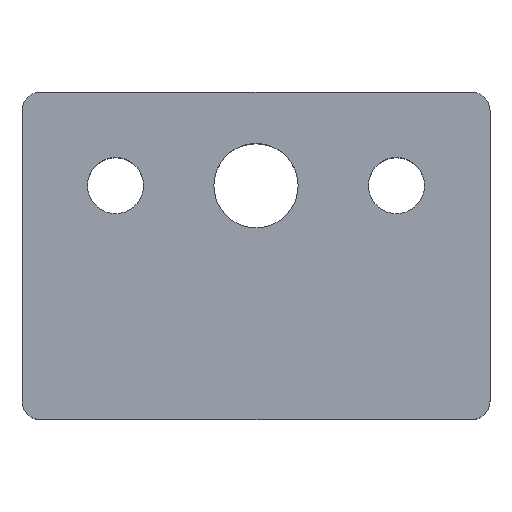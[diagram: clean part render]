
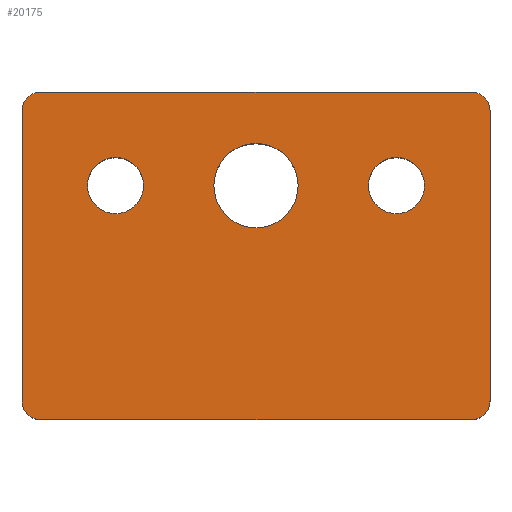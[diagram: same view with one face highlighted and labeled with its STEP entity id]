
A CAD part, top view. The second image highlights one B-rep face of the part: STEP entity #20175.
In plain terms, the highlighted planar face has unit normal (0, 0, 1).
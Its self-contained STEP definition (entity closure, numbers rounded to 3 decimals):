
#60 = ORIENTED_EDGE ( 'NONE', *, *, #28876, .F. ) ;
#336 = ORIENTED_EDGE ( 'NONE', *, *, #26117, .T. ) ;
#630 = VERTEX_POINT ( 'NONE', #32769 ) ;
#756 = DIRECTION ( 'NONE',  ( 0., 0., 1. ) ) ;
#1404 = AXIS2_PLACEMENT_3D ( 'NONE', #18788, #3070, #21399 ) ;
#1695 = ORIENTED_EDGE ( 'NONE', *, *, #13897, .F. ) ;
#1940 = VECTOR ( 'NONE', #17880, 1000. ) ;
#1994 = EDGE_CURVE ( 'NONE', #21121, #12955, #31194, .T. ) ;
#2213 = FACE_BOUND ( 'NONE', #14854, .T. ) ;
#2316 = PLANE ( 'NONE',  #7991 ) ;
#2326 = CARTESIAN_POINT ( 'NONE',  ( 50., 0., 10. ) ) ;
#2525 = DIRECTION ( 'NONE',  ( 1., 0., 0. ) ) ;
#2697 = CARTESIAN_POINT ( 'NONE',  ( 20.5, 25., 10. ) ) ;
#2826 = CARTESIAN_POINT ( 'NONE',  ( 13., 25., 10. ) ) ;
#3070 = DIRECTION ( 'NONE',  ( 0., 0., 1. ) ) ;
#3179 = AXIS2_PLACEMENT_3D ( 'NONE', #6575, #24934, #9231 ) ;
#3456 = CIRCLE ( 'NONE', #3179, 4.5 ) ;
#3517 = CARTESIAN_POINT ( 'NONE',  ( 2., 0., 10. ) ) ;
#4420 = EDGE_CURVE ( 'NONE', #23143, #30988, #16341, .T. ) ;
#4626 = VERTEX_POINT ( 'NONE', #2697 ) ;
#5233 = CARTESIAN_POINT ( 'NONE',  ( 0., 33., 10. ) ) ;
#5347 = CARTESIAN_POINT ( 'NONE',  ( 50., 33., 10. ) ) ;
#5511 = DIRECTION ( 'NONE',  ( 0., 0., 1. ) ) ;
#6178 = CARTESIAN_POINT ( 'NONE',  ( 43., 25., 10. ) ) ;
#6294 = CARTESIAN_POINT ( 'NONE',  ( 48., 0., 10. ) ) ;
#6348 = ORIENTED_EDGE ( 'NONE', *, *, #9123, .T. ) ;
#6404 = DIRECTION ( 'NONE',  ( 0., -1., 0. ) ) ;
#6575 = CARTESIAN_POINT ( 'NONE',  ( 25., 25., 10. ) ) ;
#6658 = ORIENTED_EDGE ( 'NONE', *, *, #23020, .F. ) ;
#6677 = CIRCLE ( 'NONE', #10704, 4.5 ) ;
#7429 = AXIS2_PLACEMENT_3D ( 'NONE', #30813, #15057, #33474 ) ;
#7602 = CARTESIAN_POINT ( 'NONE',  ( 0., 0., 10. ) ) ;
#7991 = AXIS2_PLACEMENT_3D ( 'NONE', #7602, #28594, #12891 ) ;
#8395 = FACE_BOUND ( 'NONE', #9142, .T. ) ;
#8520 = CARTESIAN_POINT ( 'NONE',  ( 48., 33., 10. ) ) ;
#9123 = EDGE_CURVE ( 'NONE', #23951, #630, #30700, .T. ) ;
#9142 = EDGE_LOOP ( 'NONE', ( #18894, #6658 ) ) ;
#9231 = DIRECTION ( 'NONE',  ( 1., 0., 0. ) ) ;
#9328 = CARTESIAN_POINT ( 'NONE',  ( 48., 2., 10. ) ) ;
#9347 = ORIENTED_EDGE ( 'NONE', *, *, #19127, .T. ) ;
#10098 = DIRECTION ( 'NONE',  ( 0., 0., 1. ) ) ;
#10327 = CARTESIAN_POINT ( 'NONE',  ( 0., 0., 10. ) ) ;
#10475 = VERTEX_POINT ( 'NONE', #19783 ) ;
#10704 = AXIS2_PLACEMENT_3D ( 'NONE', #34006, #18244, #2525 ) ;
#11176 = DIRECTION ( 'NONE',  ( 1., 0., 0. ) ) ;
#11789 = EDGE_LOOP ( 'NONE', ( #13267, #60 ) ) ;
#11960 = DIRECTION ( 'NONE',  ( 1., 0., 0. ) ) ;
#12013 = CARTESIAN_POINT ( 'NONE',  ( 29.5, 25., 10. ) ) ;
#12368 = CARTESIAN_POINT ( 'NONE',  ( 7., 25., 10. ) ) ;
#12678 = CIRCLE ( 'NONE', #7429, 3. ) ;
#12785 = DIRECTION ( 'NONE',  ( 0., 1., 0. ) ) ;
#12842 = ORIENTED_EDGE ( 'NONE', *, *, #4420, .F. ) ;
#12891 = DIRECTION ( 'NONE',  ( 1., 0., 0. ) ) ;
#12955 = VERTEX_POINT ( 'NONE', #15300 ) ;
#13061 = EDGE_CURVE ( 'NONE', #24409, #32519, #18613, .T. ) ;
#13267 = ORIENTED_EDGE ( 'NONE', *, *, #13061, .F. ) ;
#13720 = EDGE_LOOP ( 'NONE', ( #21651, #336, #6348, #9347, #27769, #26933, #21882, #28734 ) ) ;
#13733 = CIRCLE ( 'NONE', #26791, 2. ) ;
#13897 = EDGE_CURVE ( 'NONE', #30988, #23143, #29612, .T. ) ;
#14854 = EDGE_LOOP ( 'NONE', ( #1695, #12842 ) ) ;
#15057 = DIRECTION ( 'NONE',  ( 0., 0., 1. ) ) ;
#15220 = CARTESIAN_POINT ( 'NONE',  ( 50., 35., 10. ) ) ;
#15300 = CARTESIAN_POINT ( 'NONE',  ( 0., 2., 10. ) ) ;
#15317 = FACE_OUTER_BOUND ( 'NONE', #13720, .T. ) ;
#15466 = CARTESIAN_POINT ( 'NONE',  ( 2., 33., 10. ) ) ;
#16341 = CIRCLE ( 'NONE', #1404, 3. ) ;
#16444 = CARTESIAN_POINT ( 'NONE',  ( 40., 25., 10. ) ) ;
#17134 = AXIS2_PLACEMENT_3D ( 'NONE', #15466, #33891, #18124 ) ;
#17177 = VECTOR ( 'NONE', #6404, 1000. ) ;
#17880 = DIRECTION ( 'NONE',  ( -1., 0., 0. ) ) ;
#18124 = DIRECTION ( 'NONE',  ( 1., 0., 0. ) ) ;
#18156 = VERTEX_POINT ( 'NONE', #6294 ) ;
#18244 = DIRECTION ( 'NONE',  ( 0., 0., 1. ) ) ;
#18266 = EDGE_CURVE ( 'NONE', #12955, #33925, #31998, .T. ) ;
#18613 = CIRCLE ( 'NONE', #21374, 3. ) ;
#18788 = CARTESIAN_POINT ( 'NONE',  ( 10., 25., 10. ) ) ;
#18894 = ORIENTED_EDGE ( 'NONE', *, *, #22606, .F. ) ;
#19113 = DIRECTION ( 'NONE',  ( 1., 0., 0. ) ) ;
#19127 = EDGE_CURVE ( 'NONE', #630, #21121, #19538, .T. ) ;
#19380 = LINE ( 'NONE', #10327, #26375 ) ;
#19538 = CIRCLE ( 'NONE', #17134, 2. ) ;
#19688 = VERTEX_POINT ( 'NONE', #12013 ) ;
#19783 = CARTESIAN_POINT ( 'NONE',  ( 50., 2., 10. ) ) ;
#19789 = CARTESIAN_POINT ( 'NONE',  ( 37., 25., 10. ) ) ;
#20175 = ADVANCED_FACE ( 'NONE', ( #8395, #2213, #23135, #15317 ), #2316, .T. ) ;
#20778 = LINE ( 'NONE', #2326, #27744 ) ;
#21121 = VERTEX_POINT ( 'NONE', #5233 ) ;
#21212 = CARTESIAN_POINT ( 'NONE',  ( 10., 25., 10. ) ) ;
#21374 = AXIS2_PLACEMENT_3D ( 'NONE', #16444, #756, #19113 ) ;
#21399 = DIRECTION ( 'NONE',  ( 1., 0., 0. ) ) ;
#21651 = ORIENTED_EDGE ( 'NONE', *, *, #30072, .T. ) ;
#21882 = ORIENTED_EDGE ( 'NONE', *, *, #23170, .T. ) ;
#22606 = EDGE_CURVE ( 'NONE', #19688, #4626, #3456, .T. ) ;
#23020 = EDGE_CURVE ( 'NONE', #4626, #19688, #6677, .T. ) ;
#23135 = FACE_BOUND ( 'NONE', #11789, .T. ) ;
#23143 = VERTEX_POINT ( 'NONE', #12368 ) ;
#23170 = EDGE_CURVE ( 'NONE', #33925, #18156, #19380, .T. ) ;
#23868 = DIRECTION ( 'NONE',  ( 1., 0., 0. ) ) ;
#23951 = VERTEX_POINT ( 'NONE', #30285 ) ;
#24409 = VERTEX_POINT ( 'NONE', #6178 ) ;
#24934 = DIRECTION ( 'NONE',  ( 0., 0., 1. ) ) ;
#25019 = CIRCLE ( 'NONE', #30028, 2. ) ;
#25793 = CARTESIAN_POINT ( 'NONE',  ( 2., 2., 10. ) ) ;
#26003 = DIRECTION ( 'NONE',  ( 1., 0., 0. ) ) ;
#26117 = EDGE_CURVE ( 'NONE', #32694, #23951, #13733, .T. ) ;
#26375 = VECTOR ( 'NONE', #26003, 1000. ) ;
#26791 = AXIS2_PLACEMENT_3D ( 'NONE', #8520, #26852, #11176 ) ;
#26852 = DIRECTION ( 'NONE',  ( 0., 0., 1. ) ) ;
#26933 = ORIENTED_EDGE ( 'NONE', *, *, #18266, .T. ) ;
#27658 = DIRECTION ( 'NONE',  ( 0., 0., 1. ) ) ;
#27744 = VECTOR ( 'NONE', #12785, 1000. ) ;
#27769 = ORIENTED_EDGE ( 'NONE', *, *, #1994, .T. ) ;
#27898 = EDGE_CURVE ( 'NONE', #18156, #10475, #25019, .T. ) ;
#28423 = DIRECTION ( 'NONE',  ( 1., 0., 0. ) ) ;
#28594 = DIRECTION ( 'NONE',  ( 0., 0., 1. ) ) ;
#28734 = ORIENTED_EDGE ( 'NONE', *, *, #27898, .T. ) ;
#28876 = EDGE_CURVE ( 'NONE', #32519, #24409, #12678, .T. ) ;
#29612 = CIRCLE ( 'NONE', #31775, 3. ) ;
#30028 = AXIS2_PLACEMENT_3D ( 'NONE', #9328, #27658, #11960 ) ;
#30072 = EDGE_CURVE ( 'NONE', #10475, #32694, #20778, .T. ) ;
#30285 = CARTESIAN_POINT ( 'NONE',  ( 48., 35., 10. ) ) ;
#30700 = LINE ( 'NONE', #15220, #1940 ) ;
#30813 = CARTESIAN_POINT ( 'NONE',  ( 40., 25., 10. ) ) ;
#30988 = VERTEX_POINT ( 'NONE', #2826 ) ;
#31194 = LINE ( 'NONE', #32371, #17177 ) ;
#31775 = AXIS2_PLACEMENT_3D ( 'NONE', #21212, #5511, #23868 ) ;
#31998 = CIRCLE ( 'NONE', #32141, 2. ) ;
#32141 = AXIS2_PLACEMENT_3D ( 'NONE', #25793, #10098, #28423 ) ;
#32371 = CARTESIAN_POINT ( 'NONE',  ( 0., 35., 10. ) ) ;
#32519 = VERTEX_POINT ( 'NONE', #19789 ) ;
#32694 = VERTEX_POINT ( 'NONE', #5347 ) ;
#32769 = CARTESIAN_POINT ( 'NONE',  ( 2., 35., 10. ) ) ;
#33474 = DIRECTION ( 'NONE',  ( 1., 0., 0. ) ) ;
#33891 = DIRECTION ( 'NONE',  ( 0., 0., 1. ) ) ;
#33925 = VERTEX_POINT ( 'NONE', #3517 ) ;
#34006 = CARTESIAN_POINT ( 'NONE',  ( 25., 25., 10. ) ) ;
